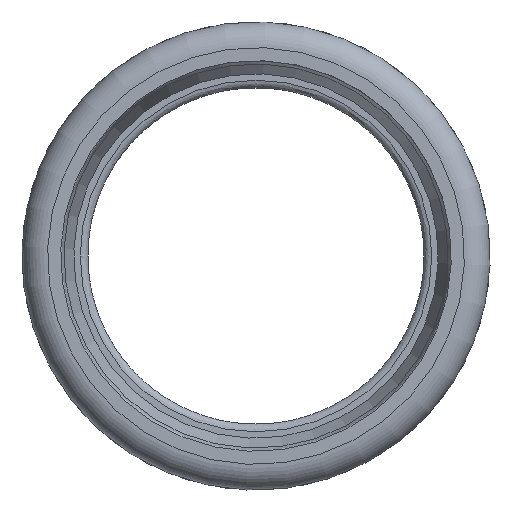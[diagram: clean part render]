
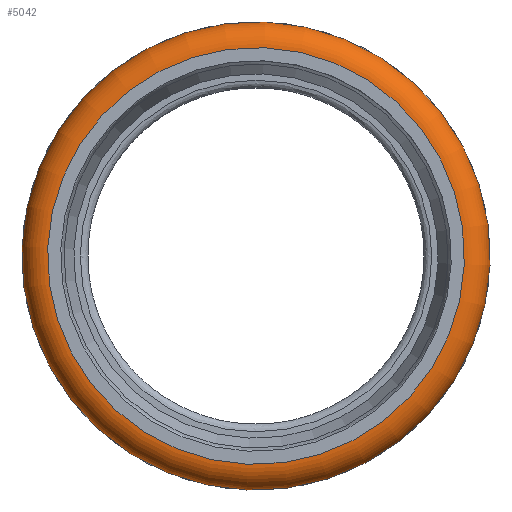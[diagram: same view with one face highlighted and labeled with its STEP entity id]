
A CAD part, left-side view. The second image highlights one B-rep face of the part: STEP entity #5042.
In plain terms, the highlighted toroidal (fillet/blend) face has major radius 48.55 mm and minor radius 6 mm.
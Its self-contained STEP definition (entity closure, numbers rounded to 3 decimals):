
#5008=CARTESIAN_POINT('',(-70.0,48.55,0.0));
#5009=VERTEX_POINT('',#5008);
#5010=CARTESIAN_POINT('',(-70.,0.,0.0));
#5011=DIRECTION('',(1.0,0.0,0.0));
#5012=DIRECTION('',(0.0,1.0,0.0));
#5013=AXIS2_PLACEMENT_3D('',#5010,#5011,#5012);
#5014=CIRCLE('',#5013,48.55);
#5015=EDGE_CURVE('',#5009,#5009,#5014,.T.);
#5023=CARTESIAN_POINT('',(-64.,0.,0.0));
#5024=DIRECTION('',(1.0,0.,0.0));
#5025=DIRECTION('',(0.0,0.0,-1.0));
#5026=AXIS2_PLACEMENT_3D('',#5023,#5024,#5025);
#5027=TOROIDAL_SURFACE('',#5026,48.55,6.);
#5028=CARTESIAN_POINT('',(-58.804,51.55,0.0));
#5029=VERTEX_POINT('',#5028);
#5030=CARTESIAN_POINT('',(-58.804,0.,0.0));
#5031=DIRECTION('',(1.0,0.0,0.0));
#5032=DIRECTION('',(0.0,1.0,0.0));
#5033=AXIS2_PLACEMENT_3D('',#5030,#5031,#5032);
#5034=CIRCLE('',#5033,51.55);
#5035=EDGE_CURVE('',#5029,#5029,#5034,.T.);
#5036=ORIENTED_EDGE('',*,*,#5035,.F.);
#5037=EDGE_LOOP('',(#5036));
#5038=FACE_OUTER_BOUND('',#5037,.T.);
#5039=ORIENTED_EDGE('',*,*,#5015,.T.);
#5040=EDGE_LOOP('',(#5039));
#5041=FACE_BOUND('',#5040,.T.);
#5042=ADVANCED_FACE('',(#5038,#5041),#5027,.T.);
